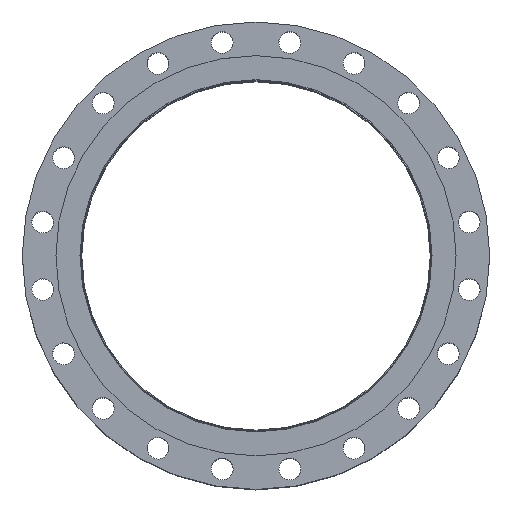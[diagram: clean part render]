
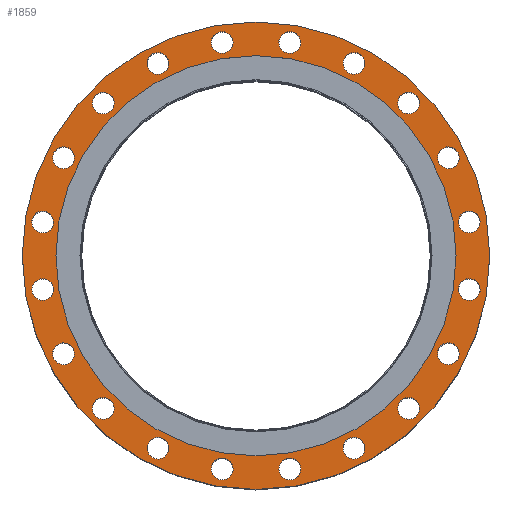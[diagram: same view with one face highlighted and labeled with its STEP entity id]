
A CAD part, top view. The second image highlights one B-rep face of the part: STEP entity #1859.
In plain terms, the highlighted planar face has unit normal (0, 0, 1).
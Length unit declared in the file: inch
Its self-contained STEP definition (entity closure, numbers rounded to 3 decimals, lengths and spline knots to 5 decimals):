
#96=FACE_BOUND('',#471,.T.);
#97=FACE_BOUND('',#472,.T.);
#98=FACE_BOUND('',#473,.T.);
#99=FACE_BOUND('',#474,.T.);
#100=FACE_BOUND('',#475,.T.);
#101=FACE_BOUND('',#476,.T.);
#102=FACE_BOUND('',#477,.T.);
#103=FACE_BOUND('',#478,.T.);
#104=FACE_BOUND('',#479,.T.);
#105=FACE_BOUND('',#480,.T.);
#106=FACE_BOUND('',#481,.T.);
#107=FACE_BOUND('',#482,.T.);
#108=FACE_BOUND('',#483,.T.);
#109=FACE_BOUND('',#484,.T.);
#110=FACE_BOUND('',#485,.T.);
#111=FACE_BOUND('',#486,.T.);
#112=FACE_BOUND('',#487,.T.);
#113=FACE_BOUND('',#488,.T.);
#114=FACE_BOUND('',#489,.T.);
#115=FACE_BOUND('',#490,.T.);
#116=FACE_BOUND('',#491,.T.);
#174=PLANE('',#2100);
#309=FACE_OUTER_BOUND('',#470,.T.);
#470=EDGE_LOOP('',(#1453));
#471=EDGE_LOOP('',(#1454));
#472=EDGE_LOOP('',(#1455));
#473=EDGE_LOOP('',(#1456));
#474=EDGE_LOOP('',(#1457));
#475=EDGE_LOOP('',(#1458));
#476=EDGE_LOOP('',(#1459));
#477=EDGE_LOOP('',(#1460));
#478=EDGE_LOOP('',(#1461));
#479=EDGE_LOOP('',(#1462));
#480=EDGE_LOOP('',(#1463));
#481=EDGE_LOOP('',(#1464));
#482=EDGE_LOOP('',(#1465));
#483=EDGE_LOOP('',(#1466));
#484=EDGE_LOOP('',(#1467));
#485=EDGE_LOOP('',(#1468));
#486=EDGE_LOOP('',(#1469));
#487=EDGE_LOOP('',(#1470));
#488=EDGE_LOOP('',(#1471));
#489=EDGE_LOOP('',(#1472));
#490=EDGE_LOOP('',(#1473));
#491=EDGE_LOOP('',(#1474));
#711=CIRCLE('',#2019,0.6875);
#713=CIRCLE('',#2022,0.6875);
#715=CIRCLE('',#2025,0.6875);
#717=CIRCLE('',#2028,0.6875);
#719=CIRCLE('',#2031,0.6875);
#721=CIRCLE('',#2034,0.6875);
#723=CIRCLE('',#2037,0.6875);
#725=CIRCLE('',#2040,0.6875);
#727=CIRCLE('',#2043,0.6875);
#729=CIRCLE('',#2046,0.6875);
#731=CIRCLE('',#2049,0.6875);
#733=CIRCLE('',#2052,0.6875);
#735=CIRCLE('',#2055,0.6875);
#737=CIRCLE('',#2058,0.6875);
#739=CIRCLE('',#2061,0.6875);
#741=CIRCLE('',#2064,0.6875);
#743=CIRCLE('',#2067,0.6875);
#745=CIRCLE('',#2070,0.6875);
#747=CIRCLE('',#2073,0.6875);
#749=CIRCLE('',#2076,0.6875);
#762=CIRCLE('',#2095,12.625);
#764=CIRCLE('',#2099,14.75);
#923=VERTEX_POINT('',#3154);
#925=VERTEX_POINT('',#3160);
#927=VERTEX_POINT('',#3166);
#929=VERTEX_POINT('',#3172);
#931=VERTEX_POINT('',#3178);
#933=VERTEX_POINT('',#3184);
#935=VERTEX_POINT('',#3190);
#937=VERTEX_POINT('',#3196);
#939=VERTEX_POINT('',#3202);
#941=VERTEX_POINT('',#3208);
#943=VERTEX_POINT('',#3214);
#945=VERTEX_POINT('',#3220);
#947=VERTEX_POINT('',#3226);
#949=VERTEX_POINT('',#3232);
#951=VERTEX_POINT('',#3238);
#953=VERTEX_POINT('',#3244);
#955=VERTEX_POINT('',#3250);
#957=VERTEX_POINT('',#3256);
#959=VERTEX_POINT('',#3262);
#961=VERTEX_POINT('',#3268);
#972=VERTEX_POINT('',#3300);
#974=VERTEX_POINT('',#3307);
#1083=EDGE_CURVE('',#923,#923,#711,.T.);
#1086=EDGE_CURVE('',#925,#925,#713,.T.);
#1089=EDGE_CURVE('',#927,#927,#715,.T.);
#1092=EDGE_CURVE('',#929,#929,#717,.T.);
#1095=EDGE_CURVE('',#931,#931,#719,.T.);
#1098=EDGE_CURVE('',#933,#933,#721,.T.);
#1101=EDGE_CURVE('',#935,#935,#723,.T.);
#1104=EDGE_CURVE('',#937,#937,#725,.T.);
#1107=EDGE_CURVE('',#939,#939,#727,.T.);
#1110=EDGE_CURVE('',#941,#941,#729,.T.);
#1113=EDGE_CURVE('',#943,#943,#731,.T.);
#1116=EDGE_CURVE('',#945,#945,#733,.T.);
#1119=EDGE_CURVE('',#947,#947,#735,.T.);
#1122=EDGE_CURVE('',#949,#949,#737,.T.);
#1125=EDGE_CURVE('',#951,#951,#739,.T.);
#1128=EDGE_CURVE('',#953,#953,#741,.T.);
#1131=EDGE_CURVE('',#955,#955,#743,.T.);
#1134=EDGE_CURVE('',#957,#957,#745,.T.);
#1137=EDGE_CURVE('',#959,#959,#747,.T.);
#1140=EDGE_CURVE('',#961,#961,#749,.T.);
#1156=EDGE_CURVE('',#972,#972,#762,.T.);
#1158=EDGE_CURVE('',#974,#974,#764,.T.);
#1453=ORIENTED_EDGE('',*,*,#1158,.T.);
#1454=ORIENTED_EDGE('',*,*,#1083,.T.);
#1455=ORIENTED_EDGE('',*,*,#1086,.T.);
#1456=ORIENTED_EDGE('',*,*,#1089,.T.);
#1457=ORIENTED_EDGE('',*,*,#1092,.T.);
#1458=ORIENTED_EDGE('',*,*,#1095,.T.);
#1459=ORIENTED_EDGE('',*,*,#1098,.T.);
#1460=ORIENTED_EDGE('',*,*,#1101,.T.);
#1461=ORIENTED_EDGE('',*,*,#1104,.T.);
#1462=ORIENTED_EDGE('',*,*,#1107,.T.);
#1463=ORIENTED_EDGE('',*,*,#1110,.T.);
#1464=ORIENTED_EDGE('',*,*,#1113,.T.);
#1465=ORIENTED_EDGE('',*,*,#1116,.T.);
#1466=ORIENTED_EDGE('',*,*,#1119,.T.);
#1467=ORIENTED_EDGE('',*,*,#1122,.T.);
#1468=ORIENTED_EDGE('',*,*,#1125,.T.);
#1469=ORIENTED_EDGE('',*,*,#1128,.T.);
#1470=ORIENTED_EDGE('',*,*,#1131,.T.);
#1471=ORIENTED_EDGE('',*,*,#1134,.T.);
#1472=ORIENTED_EDGE('',*,*,#1137,.T.);
#1473=ORIENTED_EDGE('',*,*,#1140,.T.);
#1474=ORIENTED_EDGE('',*,*,#1156,.T.);
#1859=ADVANCED_FACE('',(#309,#96,#97,#98,#99,#100,#101,#102,#103,#104,#105,
#106,#107,#108,#109,#110,#111,#112,#113,#114,#115,#116),#174,.T.);
#2019=AXIS2_PLACEMENT_3D('',#3155,#2391,#2392);
#2022=AXIS2_PLACEMENT_3D('',#3161,#2398,#2399);
#2025=AXIS2_PLACEMENT_3D('',#3167,#2405,#2406);
#2028=AXIS2_PLACEMENT_3D('',#3173,#2412,#2413);
#2031=AXIS2_PLACEMENT_3D('',#3179,#2419,#2420);
#2034=AXIS2_PLACEMENT_3D('',#3185,#2426,#2427);
#2037=AXIS2_PLACEMENT_3D('',#3191,#2433,#2434);
#2040=AXIS2_PLACEMENT_3D('',#3197,#2440,#2441);
#2043=AXIS2_PLACEMENT_3D('',#3203,#2447,#2448);
#2046=AXIS2_PLACEMENT_3D('',#3209,#2454,#2455);
#2049=AXIS2_PLACEMENT_3D('',#3215,#2461,#2462);
#2052=AXIS2_PLACEMENT_3D('',#3221,#2468,#2469);
#2055=AXIS2_PLACEMENT_3D('',#3227,#2475,#2476);
#2058=AXIS2_PLACEMENT_3D('',#3233,#2482,#2483);
#2061=AXIS2_PLACEMENT_3D('',#3239,#2489,#2490);
#2064=AXIS2_PLACEMENT_3D('',#3245,#2496,#2497);
#2067=AXIS2_PLACEMENT_3D('',#3251,#2503,#2504);
#2070=AXIS2_PLACEMENT_3D('',#3257,#2510,#2511);
#2073=AXIS2_PLACEMENT_3D('',#3263,#2517,#2518);
#2076=AXIS2_PLACEMENT_3D('',#3269,#2524,#2525);
#2095=AXIS2_PLACEMENT_3D('',#3302,#2565,#2566);
#2099=AXIS2_PLACEMENT_3D('',#3308,#2573,#2574);
#2100=AXIS2_PLACEMENT_3D('',#3310,#2576,#2577);
#2391=DIRECTION('center_axis',(0.,0.,-1.));
#2392=DIRECTION('ref_axis',(0.951,-0.309,0.));
#2398=DIRECTION('center_axis',(0.,0.,-1.));
#2399=DIRECTION('ref_axis',(0.809,-0.588,0.));
#2405=DIRECTION('center_axis',(0.,0.,-1.));
#2406=DIRECTION('ref_axis',(0.588,-0.809,0.));
#2412=DIRECTION('center_axis',(0.,0.,-1.));
#2413=DIRECTION('ref_axis',(0.309,-0.951,0.));
#2419=DIRECTION('center_axis',(0.,0.,-1.));
#2420=DIRECTION('ref_axis',(0.,-1.,0.));
#2426=DIRECTION('center_axis',(0.,0.,-1.));
#2427=DIRECTION('ref_axis',(-0.309,-0.951,0.));
#2433=DIRECTION('center_axis',(0.,0.,-1.));
#2434=DIRECTION('ref_axis',(-0.588,-0.809,0.));
#2440=DIRECTION('center_axis',(0.,0.,-1.));
#2441=DIRECTION('ref_axis',(-0.809,-0.588,0.));
#2447=DIRECTION('center_axis',(0.,0.,-1.));
#2448=DIRECTION('ref_axis',(-0.951,-0.309,0.));
#2454=DIRECTION('center_axis',(0.,0.,-1.));
#2455=DIRECTION('ref_axis',(-1.,0.,0.));
#2461=DIRECTION('center_axis',(0.,0.,-1.));
#2462=DIRECTION('ref_axis',(-0.951,0.309,0.));
#2468=DIRECTION('center_axis',(0.,0.,-1.));
#2469=DIRECTION('ref_axis',(-0.809,0.588,0.));
#2475=DIRECTION('center_axis',(0.,0.,-1.));
#2476=DIRECTION('ref_axis',(-0.588,0.809,0.));
#2482=DIRECTION('center_axis',(0.,0.,-1.));
#2483=DIRECTION('ref_axis',(-0.309,0.951,0.));
#2489=DIRECTION('center_axis',(0.,0.,-1.));
#2490=DIRECTION('ref_axis',(0.,1.,0.));
#2496=DIRECTION('center_axis',(0.,0.,-1.));
#2497=DIRECTION('ref_axis',(0.309,0.951,0.));
#2503=DIRECTION('center_axis',(0.,0.,-1.));
#2504=DIRECTION('ref_axis',(0.588,0.809,0.));
#2510=DIRECTION('center_axis',(0.,0.,-1.));
#2511=DIRECTION('ref_axis',(0.809,0.588,0.));
#2517=DIRECTION('center_axis',(0.,0.,-1.));
#2518=DIRECTION('ref_axis',(0.951,0.309,0.));
#2524=DIRECTION('center_axis',(0.,0.,-1.));
#2525=DIRECTION('ref_axis',(1.,0.,0.));
#2565=DIRECTION('center_axis',(0.,0.,-1.));
#2566=DIRECTION('ref_axis',(0.,1.,0.));
#2573=DIRECTION('center_axis',(0.,0.,1.));
#2574=DIRECTION('ref_axis',(1.,0.,0.));
#2576=DIRECTION('center_axis',(0.,0.,1.));
#2577=DIRECTION('ref_axis',(1.,0.,0.));
#3154=CARTESIAN_POINT('',(1.47757,13.6697,0.875));
#3155=CARTESIAN_POINT('Origin',(2.13142,13.45725,0.875));
#3160=CARTESIAN_POINT('',(5.62942,12.54407,0.875));
#3161=CARTESIAN_POINT('Origin',(6.18562,12.13996,0.875));
#3166=CARTESIAN_POINT('',(9.23023,10.19053,0.875));
#3167=CARTESIAN_POINT('Origin',(9.63433,9.63433,0.875));
#3172=CARTESIAN_POINT('',(11.92751,6.83947,0.875));
#3173=CARTESIAN_POINT('Origin',(12.13996,6.18562,0.875));
#3178=CARTESIAN_POINT('',(13.45725,2.81892,0.875));
#3179=CARTESIAN_POINT('Origin',(13.45725,2.13142,0.875));
#3184=CARTESIAN_POINT('',(13.6697,-1.47757,0.875));
#3185=CARTESIAN_POINT('Origin',(13.45725,-2.13142,0.875));
#3190=CARTESIAN_POINT('',(12.54407,-5.62942,0.875));
#3191=CARTESIAN_POINT('Origin',(12.13996,-6.18562,0.875));
#3196=CARTESIAN_POINT('',(10.19053,-9.23023,0.875));
#3197=CARTESIAN_POINT('Origin',(9.63433,-9.63433,0.875));
#3202=CARTESIAN_POINT('',(6.83947,-11.92751,0.875));
#3203=CARTESIAN_POINT('Origin',(6.18562,-12.13996,0.875));
#3208=CARTESIAN_POINT('',(2.81892,-13.45725,0.875));
#3209=CARTESIAN_POINT('Origin',(2.13142,-13.45725,0.875));
#3214=CARTESIAN_POINT('',(-1.47757,-13.6697,0.875));
#3215=CARTESIAN_POINT('Origin',(-2.13142,-13.45725,0.875));
#3220=CARTESIAN_POINT('',(-5.62942,-12.54407,0.875));
#3221=CARTESIAN_POINT('Origin',(-6.18562,-12.13996,0.875));
#3226=CARTESIAN_POINT('',(-9.23023,-10.19053,0.875));
#3227=CARTESIAN_POINT('Origin',(-9.63433,-9.63433,0.875));
#3232=CARTESIAN_POINT('',(-11.92751,-6.83947,0.875));
#3233=CARTESIAN_POINT('Origin',(-12.13996,-6.18562,0.875));
#3238=CARTESIAN_POINT('',(-13.45725,-2.81892,0.875));
#3239=CARTESIAN_POINT('Origin',(-13.45725,-2.13142,0.875));
#3244=CARTESIAN_POINT('',(-13.6697,1.47757,0.875));
#3245=CARTESIAN_POINT('Origin',(-13.45725,2.13142,0.875));
#3250=CARTESIAN_POINT('',(-12.54407,5.62942,0.875));
#3251=CARTESIAN_POINT('Origin',(-12.13996,6.18562,0.875));
#3256=CARTESIAN_POINT('',(-10.19053,9.23023,0.875));
#3257=CARTESIAN_POINT('Origin',(-9.63433,9.63433,0.875));
#3262=CARTESIAN_POINT('',(-6.83947,11.92751,0.875));
#3263=CARTESIAN_POINT('Origin',(-6.18562,12.13996,0.875));
#3268=CARTESIAN_POINT('',(-2.81892,13.45725,0.875));
#3269=CARTESIAN_POINT('Origin',(-2.13142,13.45725,0.875));
#3300=CARTESIAN_POINT('',(0.,-12.625,0.875));
#3302=CARTESIAN_POINT('Origin',(0.,0.,0.875));
#3307=CARTESIAN_POINT('',(0.,-14.75,0.875));
#3308=CARTESIAN_POINT('Origin',(0.,0.,0.875));
#3310=CARTESIAN_POINT('Origin',(0.,11.11,0.875));
